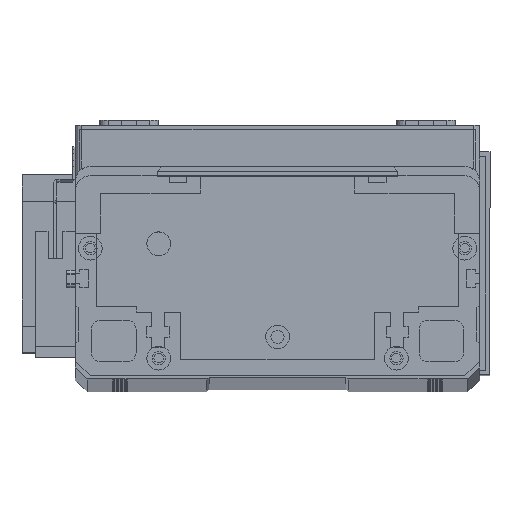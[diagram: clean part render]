
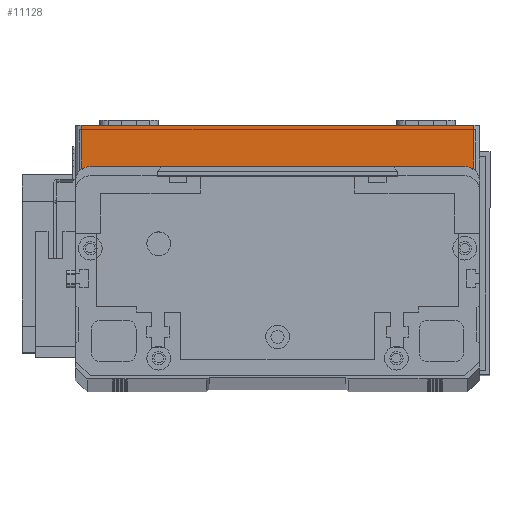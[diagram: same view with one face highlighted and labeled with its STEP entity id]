
A CAD part, top view. The second image highlights one B-rep face of the part: STEP entity #11128.
In plain terms, the highlighted planar face has unit normal (0, 0, 1) as drawn and (0, -1, 0) by its records, which use the part's own axes.
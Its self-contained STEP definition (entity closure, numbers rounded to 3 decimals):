
#1870 = VECTOR ( 'NONE', #28146, 1000. ) ;
#3098 = ORIENTED_EDGE ( 'NONE', *, *, #15521, .T. ) ;
#3455 = VERTEX_POINT ( 'NONE', #3690 ) ;
#3462 = VERTEX_POINT ( 'NONE', #20362 ) ;
#3535 = ORIENTED_EDGE ( 'NONE', *, *, #27602, .T. ) ;
#3690 = CARTESIAN_POINT ( 'NONE',  ( 134., 0., 0. ) ) ;
#4485 = CARTESIAN_POINT ( 'NONE',  ( 134., 0., 19.5 ) ) ;
#4675 = ORIENTED_EDGE ( 'NONE', *, *, #30406, .F. ) ;
#5280 = EDGE_LOOP ( 'NONE', ( #4675, #8595, #3098, #3535 ) ) ;
#5505 = CARTESIAN_POINT ( 'NONE',  ( 2., 0., 19.5 ) ) ;
#5507 = CARTESIAN_POINT ( 'NONE',  ( 0., 0., 0. ) ) ;
#5637 = AXIS2_PLACEMENT_3D ( 'NONE', #17387, #10355, #26889 ) ;
#7194 = LINE ( 'NONE', #5507, #19763 ) ;
#7309 = CARTESIAN_POINT ( 'NONE',  ( 2., 0., 0. ) ) ;
#8165 = LINE ( 'NONE', #4485, #1870 ) ;
#8595 = ORIENTED_EDGE ( 'NONE', *, *, #25593, .T. ) ;
#8780 = CARTESIAN_POINT ( 'NONE',  ( 2., 0., 19.5 ) ) ;
#10193 = LINE ( 'NONE', #30443, #17231 ) ;
#10355 = DIRECTION ( 'NONE',  ( 0., 1., 0. ) ) ;
#11128 = ADVANCED_FACE ( 'NONE', ( #24927 ), #24537, .F. ) ;
#13391 = VECTOR ( 'NONE', #26765, 1000. ) ;
#14052 = DIRECTION ( 'NONE',  ( 1., 0., 0. ) ) ;
#15521 = EDGE_CURVE ( 'NONE', #27149, #3455, #7194, .T. ) ;
#17231 = VECTOR ( 'NONE', #14052, 1000. ) ;
#17387 = CARTESIAN_POINT ( 'NONE',  ( 0., 0., 19.5 ) ) ;
#19657 = DIRECTION ( 'NONE',  ( 1., 0., 0. ) ) ;
#19763 = VECTOR ( 'NONE', #19657, 1000. ) ;
#20362 = CARTESIAN_POINT ( 'NONE',  ( 134., 0., 19.5 ) ) ;
#20427 = LINE ( 'NONE', #5505, #13391 ) ;
#24537 = PLANE ( 'NONE',  #5637 ) ;
#24927 = FACE_OUTER_BOUND ( 'NONE', #5280, .T. ) ;
#25364 = VERTEX_POINT ( 'NONE', #8780 ) ;
#25593 = EDGE_CURVE ( 'NONE', #25364, #27149, #20427, .T. ) ;
#26765 = DIRECTION ( 'NONE',  ( 0., 0., -1. ) ) ;
#26889 = DIRECTION ( 'NONE',  ( 0., 0., 1. ) ) ;
#27149 = VERTEX_POINT ( 'NONE', #7309 ) ;
#27602 = EDGE_CURVE ( 'NONE', #3455, #3462, #8165, .T. ) ;
#28146 = DIRECTION ( 'NONE',  ( 0., 0., 1. ) ) ;
#30406 = EDGE_CURVE ( 'NONE', #25364, #3462, #10193, .T. ) ;
#30443 = CARTESIAN_POINT ( 'NONE',  ( 0., 0., 19.5 ) ) ;
